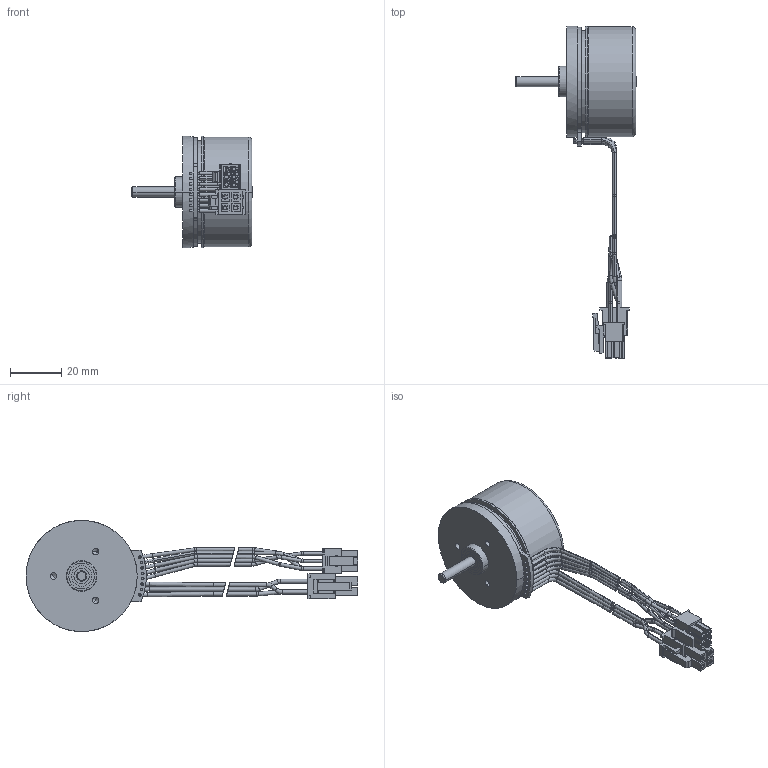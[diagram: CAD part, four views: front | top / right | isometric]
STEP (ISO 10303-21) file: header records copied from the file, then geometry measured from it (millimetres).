
FILE_DESCRIPTION((''),'2;1');
FILE_NAME('4590664','2020-04-20T',('MMAGVISI'),(''),'CREO PARAMETRIC BY PTC INC, 2017300','CREO PARAMETRIC BY PTC INC, 2017300','');
FILE_SCHEMA(('CONFIG_CONTROL_DESIGN'));
Length unit declared in the file: millimetre
Products named in the file (1): 4590664
Bounding box: 47.2 x 129.8 x 43.5 mm (x, y, z)
Volume: 42098 mm3; surface area: 14305.1 mm2
Topology: 12 solids, 12 shells, 732 faces, 1844 edges, 1168 vertices
Faces by surface type: plane 413, cylinder 231, torus 74, cone 10, revolution 4
Entity records: 28417 total; most frequent: CARTESIAN_POINT 4831, DIRECTION 3745, ORIENTED_EDGE 3676, PRESENTATION_STYLE_ASSIGNMENT 1850, STYLED_ITEM 1850, CURVE_STYLE 1838, EDGE_CURVE 1838, AXIS2_PLACEMENT_3D 1251
